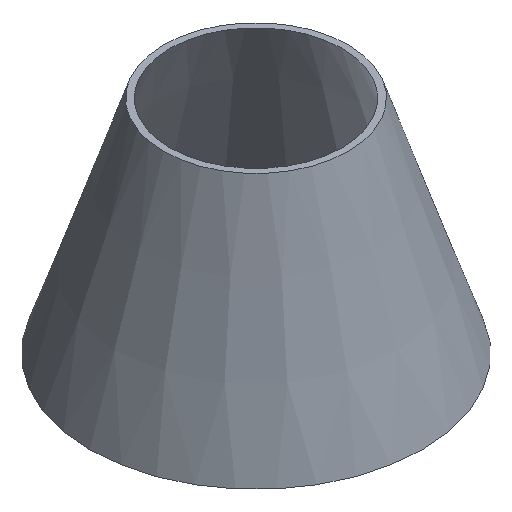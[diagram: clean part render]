
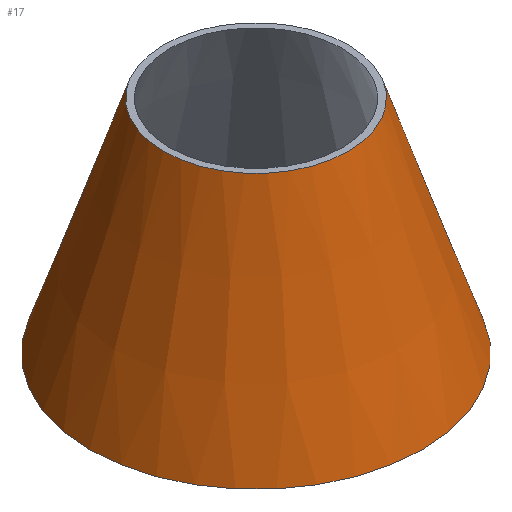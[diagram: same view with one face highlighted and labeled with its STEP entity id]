
A CAD part, isometric view. The second image highlights one B-rep face of the part: STEP entity #17.
In plain terms, the highlighted conical face has half-angle 18.435 degrees and reference radius 45 mm.
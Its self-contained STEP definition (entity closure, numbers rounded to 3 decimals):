
#17 = ADVANCED_FACE('',(#18),#31,.T.);
#18 = FACE_BOUND('',#19,.T.);
#19 = EDGE_LOOP('',(#20,#54,#74,#101));
#20 = ORIENTED_EDGE('',*,*,#21,.T.);
#21 = EDGE_CURVE('',#22,#22,#24,.T.);
#22 = VERTEX_POINT('',#23);
#23 = CARTESIAN_POINT('',(-352.,90.,-45.));
#24 = SURFACE_CURVE('',#25,(#30,#42),.PCURVE_S1.);
#25 = CIRCLE('',#26,45.);
#26 = AXIS2_PLACEMENT_3D('',#27,#28,#29);
#27 = CARTESIAN_POINT('',(-397.,90.,-45.));
#28 = DIRECTION('',(0.,0.,1.));
#29 = DIRECTION('',(1.,0.,0.));
#30 = PCURVE('',#31,#36);
#31 = CONICAL_SURFACE('',#32,45.,0.322);
#32 = AXIS2_PLACEMENT_3D('',#33,#34,#35);
#33 = CARTESIAN_POINT('',(-397.,90.,-45.));
#34 = DIRECTION('',(-0.,-0.,-1.));
#35 = DIRECTION('',(1.,0.,0.));
#36 = DEFINITIONAL_REPRESENTATION('',(#37),#41);
#37 = LINE('',#38,#39);
#38 = CARTESIAN_POINT('',(-0.,-0.));
#39 = VECTOR('',#40,1.);
#40 = DIRECTION('',(-1.,-0.));
#41 = ( GEOMETRIC_REPRESENTATION_CONTEXT(2) 
PARAMETRIC_REPRESENTATION_CONTEXT() REPRESENTATION_CONTEXT('2D SPACE',''
  ) );
#42 = PCURVE('',#43,#48);
#43 = PLANE('',#44);
#44 = AXIS2_PLACEMENT_3D('',#45,#46,#47);
#45 = CARTESIAN_POINT('',(-397.,90.,-45.));
#46 = DIRECTION('',(0.,0.,1.));
#47 = DIRECTION('',(1.,0.,0.));
#48 = DEFINITIONAL_REPRESENTATION('',(#49),#53);
#49 = CIRCLE('',#50,45.);
#50 = AXIS2_PLACEMENT_2D('',#51,#52);
#51 = CARTESIAN_POINT('',(0.,0.));
#52 = DIRECTION('',(1.,0.));
#53 = ( GEOMETRIC_REPRESENTATION_CONTEXT(2) 
PARAMETRIC_REPRESENTATION_CONTEXT() REPRESENTATION_CONTEXT('2D SPACE',''
  ) );
#54 = ORIENTED_EDGE('',*,*,#55,.T.);
#55 = EDGE_CURVE('',#22,#56,#58,.T.);
#56 = VERTEX_POINT('',#57);
#57 = CARTESIAN_POINT('',(-372.,90.,15.));
#58 = SEAM_CURVE('',#59,(#62,#68),.PCURVE_S1.);
#59 = B_SPLINE_CURVE_WITH_KNOTS('',1,(#60,#61),.UNSPECIFIED.,.F.,.F.,(2,
    2),(0.,1.),.PIECEWISE_BEZIER_KNOTS.);
#60 = CARTESIAN_POINT('',(-352.,90.,-45.));
#61 = CARTESIAN_POINT('',(-372.,90.,15.));
#62 = PCURVE('',#31,#63);
#63 = DEFINITIONAL_REPRESENTATION('',(#64),#67);
#64 = B_SPLINE_CURVE_WITH_KNOTS('',1,(#65,#66),.UNSPECIFIED.,.F.,.F.,(2,
    2),(0.,1.),.PIECEWISE_BEZIER_KNOTS.);
#65 = CARTESIAN_POINT('',(-6.283,0.));
#66 = CARTESIAN_POINT('',(-6.283,-60.));
#67 = ( GEOMETRIC_REPRESENTATION_CONTEXT(2) 
PARAMETRIC_REPRESENTATION_CONTEXT() REPRESENTATION_CONTEXT('2D SPACE',''
  ) );
#68 = PCURVE('',#31,#69);
#69 = DEFINITIONAL_REPRESENTATION('',(#70),#73);
#70 = B_SPLINE_CURVE_WITH_KNOTS('',1,(#71,#72),.UNSPECIFIED.,.F.,.F.,(2,
    2),(0.,1.),.PIECEWISE_BEZIER_KNOTS.);
#71 = CARTESIAN_POINT('',(0.,0.));
#72 = CARTESIAN_POINT('',(0.,-60.));
#73 = ( GEOMETRIC_REPRESENTATION_CONTEXT(2) 
PARAMETRIC_REPRESENTATION_CONTEXT() REPRESENTATION_CONTEXT('2D SPACE',''
  ) );
#74 = ORIENTED_EDGE('',*,*,#75,.F.);
#75 = EDGE_CURVE('',#56,#56,#76,.T.);
#76 = SURFACE_CURVE('',#77,(#82,#89),.PCURVE_S1.);
#77 = CIRCLE('',#78,25.);
#78 = AXIS2_PLACEMENT_3D('',#79,#80,#81);
#79 = CARTESIAN_POINT('',(-397.,90.,15.));
#80 = DIRECTION('',(0.,0.,1.));
#81 = DIRECTION('',(1.,0.,0.));
#82 = PCURVE('',#31,#83);
#83 = DEFINITIONAL_REPRESENTATION('',(#84),#88);
#84 = LINE('',#85,#86);
#85 = CARTESIAN_POINT('',(-0.,-60.));
#86 = VECTOR('',#87,1.);
#87 = DIRECTION('',(-1.,-0.));
#88 = ( GEOMETRIC_REPRESENTATION_CONTEXT(2) 
PARAMETRIC_REPRESENTATION_CONTEXT() REPRESENTATION_CONTEXT('2D SPACE',''
  ) );
#89 = PCURVE('',#90,#95);
#90 = PLANE('',#91);
#91 = AXIS2_PLACEMENT_3D('',#92,#93,#94);
#92 = CARTESIAN_POINT('',(-397.,90.,15.));
#93 = DIRECTION('',(0.,0.,1.));
#94 = DIRECTION('',(1.,0.,0.));
#95 = DEFINITIONAL_REPRESENTATION('',(#96),#100);
#96 = CIRCLE('',#97,25.);
#97 = AXIS2_PLACEMENT_2D('',#98,#99);
#98 = CARTESIAN_POINT('',(0.,0.));
#99 = DIRECTION('',(1.,0.));
#100 = ( GEOMETRIC_REPRESENTATION_CONTEXT(2) 
PARAMETRIC_REPRESENTATION_CONTEXT() REPRESENTATION_CONTEXT('2D SPACE',''
  ) );
#101 = ORIENTED_EDGE('',*,*,#55,.F.);
